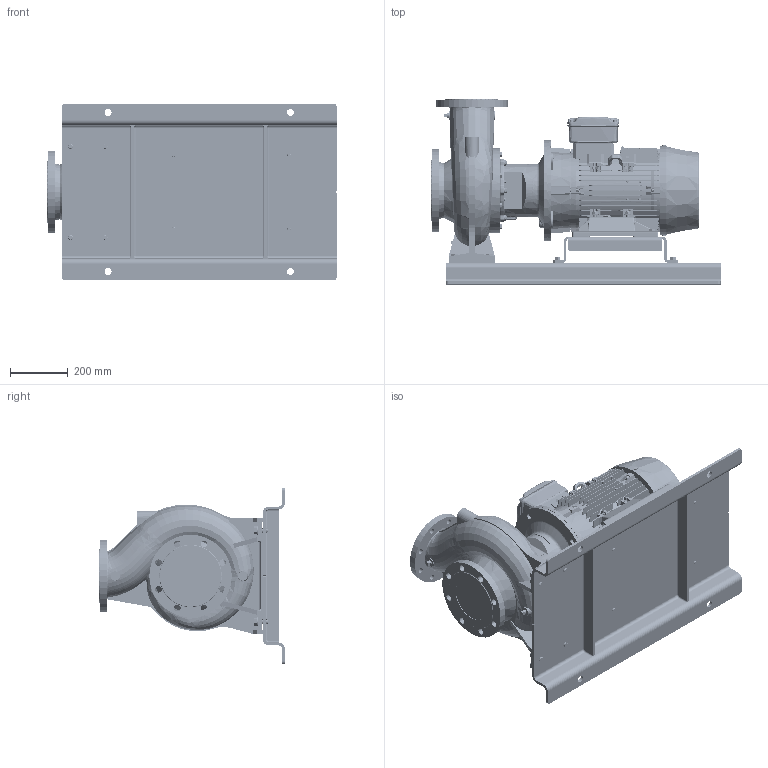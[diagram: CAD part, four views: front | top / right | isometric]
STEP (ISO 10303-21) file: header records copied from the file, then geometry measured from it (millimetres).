
FILE_DESCRIPTION (( 'STEP AP214' ), '1' );
FILE_NAME ('GSD4 125-200_11.0 & 15.0_(160ML)_W21_BP.STEP', '2026-05-08T05:01:45', ( '' ), ( '' ), 'SwSTEP 2.0', 'SolidWorks 2024', '' );
FILE_SCHEMA (( 'AUTOMOTIVE_DESIGN' ));
Length unit declared in the file: millimetre
Products named in the file (13): GSD4 125-200_11.0 & 15.0_(160ML)_W21_BP; 125-200-160M_L_ﾃﾞﾌｫﾙﾄ; CGS11-5254; Parametric Flat Washer_M16; 160M_L_ALIE3_W21T_B35; Parametric bolt_SFT-A303B; Parametric bolt and washer_SFT-A297B; Parametric bolt and washer_SFT-A353B; Parametric bolt_SFT-A353B; Parametric bolt and washer_SFT-A303B; Parametric bolt_SFT-A297B; Parametric Flat Washer_M12; N7S3 GSDA-733 F1-1832946-00
Assembly tree (22 placements, depth 3):
  GSD4 125-200_11.0 & 15.0_(160ML)_W21_BP
    125-200-160M_L_ﾃﾞﾌｫﾙﾄ
    N7S3 GSDA-733 F1-1832946-00
    CGS11-5254
    Parametric bolt and washer_SFT-A353B  x4
      Parametric bolt_SFT-A353B
      Parametric Flat Washer_M16
    Parametric bolt and washer_SFT-A297B  x4
      Parametric bolt_SFT-A297B
      Parametric Flat Washer_M12
    Parametric bolt and washer_SFT-A303B  x4
      Parametric bolt_SFT-A303B
      Parametric Flat Washer_M12
    160M_L_ALIE3_W21T_B35
Bounding box: 1000 x 640 x 610 mm (x, y, z)
Volume: 70217205.7 mm3; surface area: 5110789.6 mm2
Topology: 58 solids, 64 shells, 6459 faces, 16678 edges, 10793 vertices
Faces by surface type: plane 3800, cylinder 1341, cone 609, bspline 464, torus 229, sphere 16
Entity records: 249116 total; most frequent: CARTESIAN_POINT 110651, ORIENTED_EDGE 30332, DIRECTION 25676, EDGE_CURVE 15166, VERTEX_POINT 9824, VECTOR 9602, LINE 9602, AXIS2_PLACEMENT_3D 8037
